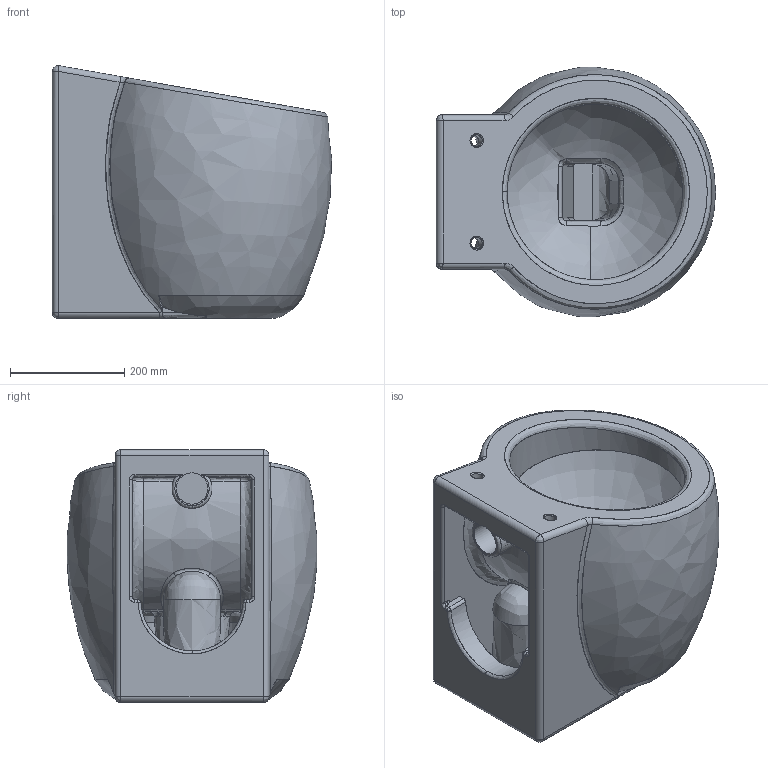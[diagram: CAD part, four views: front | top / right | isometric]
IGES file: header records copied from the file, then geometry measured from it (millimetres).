
Start section: C
Global section: file name: Planet-A-S (8402).igs; native system:  By UGS Corp.; preprocessor: XPlus GENERIC/IGES 3.0; author: Author; organization: Title; date: 20120326.120910; units: millimetre
Bounding box: 489.86 x 438.33 x 443.07 mm (x, y, z)
Surface area: 1520061.2 mm2 (no closed solid volume)
Topology: 0 solids, 0 shells, 206 faces, 1216 edges, 1202 vertices
Faces by surface type: bspline 206
